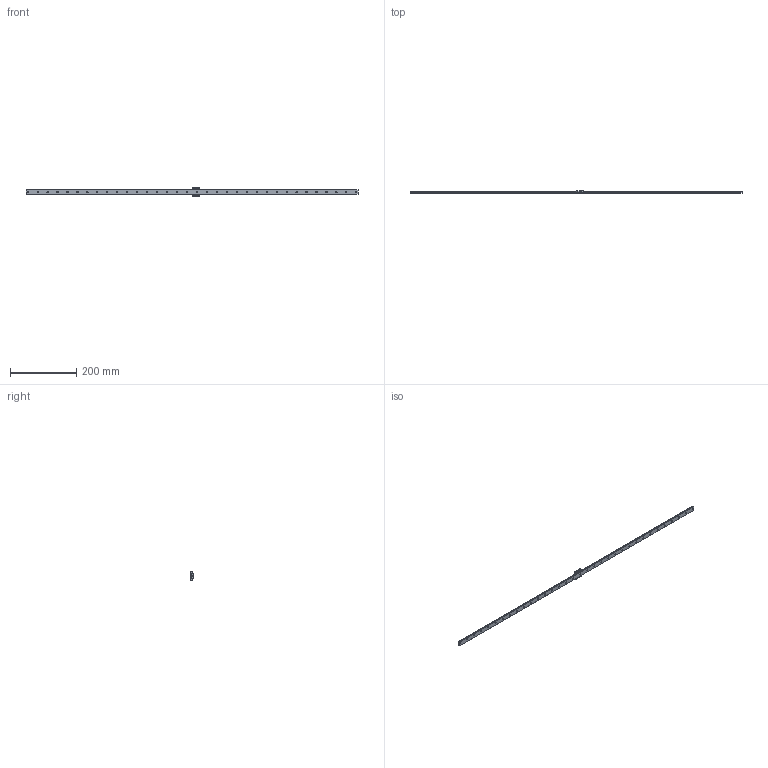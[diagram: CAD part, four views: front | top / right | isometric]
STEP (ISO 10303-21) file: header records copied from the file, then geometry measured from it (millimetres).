
FILE_DESCRIPTION(/* description */ ('STEP AP214'),/* implementation_level */ '2;1');
FILE_NAME(/* name */ 'SRS7WSSS-1000LTM_G5_0_500_0_0_0_1',/* time_stamp */ '2024-01-22T14:18:09+01:00',/* author */ ('License CC BY-ND 4.0'),/* organization */ ('CADENAS'),/* preprocessor_version */ 'ST-DEVELOPER v19.3',/* originating_system */ 'PARTsolutions',/* authorisation */ ' ');
FILE_SCHEMA (('AUTOMOTIVE_DESIGN {1 0 10303 214 3 1 1}'));
Length unit declared in the file: millimetre
Products named in the file (3): SRS7WSSS-1000LTM_G5_0_500_0_0_0_1; SRS7WS10005 Track; SRS7WSSS1 Slider
Assembly tree (2 placements, depth 2):
  SRS7WSSS-1000LTM_G5_0_500_0_0_0_1
    SRS7WS10005 Track
    SRS7WSSS1 Slider
Bounding box: 1000 x 9 x 25 mm (x, y, z)
Volume: 70728.2 mm3; surface area: 42554.7 mm2
Topology: 2 solids, 2 shells, 260 faces, 650 edges, 430 vertices
Faces by surface type: plane 151, cylinder 105, cone 4
Full cylindrical faces by diameter (mm): 1.2 x2, 2.459 x2, 3.5 x34, 6 x34
Entity records: 7609 total; most frequent: DIRECTION 1328, CARTESIAN_POINT 1261, ORIENTED_EDGE 1140, EDGE_CURVE 570, AXIS2_PLACEMENT_3D 495, FACE_BOUND 442, EDGE_LOOP 440, VERTEX_POINT 428
